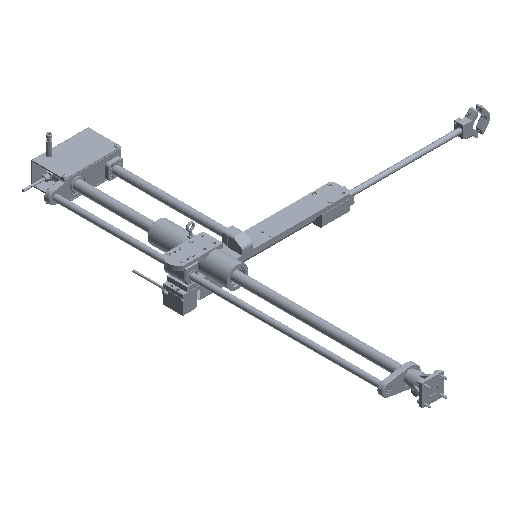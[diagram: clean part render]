
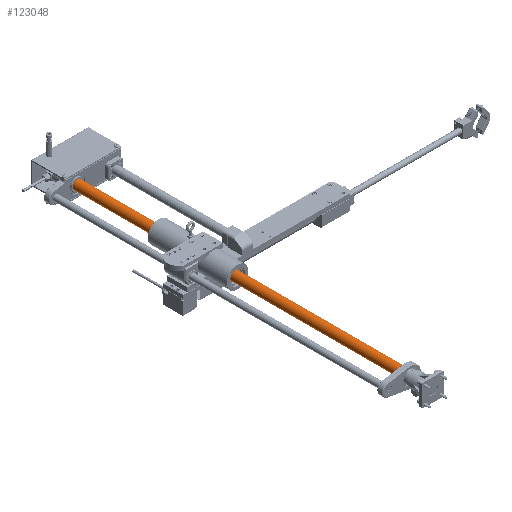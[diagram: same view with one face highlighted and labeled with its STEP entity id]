
A CAD part, isometric view. The second image highlights one B-rep face of the part: STEP entity #123048.
In plain terms, the highlighted cylindrical face has radius 12.5 mm (diameter 25 mm), a partial arc.
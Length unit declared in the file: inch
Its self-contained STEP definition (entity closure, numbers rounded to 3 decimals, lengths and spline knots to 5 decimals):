
#3354 = CARTESIAN_POINT ( 'NONE',  ( 0.49213, 0., 38.58268 ) ) ;
#6844 = CIRCLE ( 'NONE', #18967, 0.49213 ) ;
#7171 = CARTESIAN_POINT ( 'NONE',  ( 0., 0., 38.54331 ) ) ;
#17073 = CARTESIAN_POINT ( 'NONE',  ( 0., 0., 0.03937 ) ) ;
#18967 = AXIS2_PLACEMENT_3D ( 'NONE', #17073, #117022, #31469 ) ;
#21378 = FACE_OUTER_BOUND ( 'NONE', #105365, .T. ) ;
#21532 = DIRECTION ( 'NONE',  ( 1., 0., 0. ) ) ;
#25702 = EDGE_CURVE ( 'NONE', #120242, #50035, #6844, .T. ) ;
#31469 = DIRECTION ( 'NONE',  ( 1., 0., 0. ) ) ;
#36453 = EDGE_CURVE ( 'NONE', #66056, #150390, #83802, .T. ) ;
#40028 = CARTESIAN_POINT ( 'NONE',  ( -0.49213, 0., 38.54331 ) ) ;
#40856 = AXIS2_PLACEMENT_3D ( 'NONE', #7171, #107111, #21532 ) ;
#42890 = VECTOR ( 'NONE', #105676, 39.37008 ) ;
#47448 = LINE ( 'NONE', #120054, #42890 ) ;
#50035 = VERTEX_POINT ( 'NONE', #100467 ) ;
#52361 = CARTESIAN_POINT ( 'NONE',  ( 0., 0., 38.58268 ) ) ;
#64918 = VECTOR ( 'NONE', #88906, 39.37008 ) ;
#66056 = VERTEX_POINT ( 'NONE', #40028 ) ;
#69380 = LINE ( 'NONE', #3354, #64918 ) ;
#71597 = ORIENTED_EDGE ( 'NONE', *, *, #36453, .T. ) ;
#83802 = CIRCLE ( 'NONE', #40856, 0.49213 ) ;
#88906 = DIRECTION ( 'NONE',  ( 0., 0., -1. ) ) ;
#100467 = CARTESIAN_POINT ( 'NONE',  ( -0.49213, 0., 0.03937 ) ) ;
#101502 = EDGE_CURVE ( 'NONE', #66056, #50035, #47448, .T. ) ;
#105365 = EDGE_LOOP ( 'NONE', ( #71597, #167458, #178089, #146533 ) ) ;
#105676 = DIRECTION ( 'NONE',  ( 0., 0., -1. ) ) ;
#107111 = DIRECTION ( 'NONE',  ( 0., 0., -1. ) ) ;
#109782 = AXIS2_PLACEMENT_3D ( 'NONE', #52361, #180313, #152229 ) ;
#111227 = CARTESIAN_POINT ( 'NONE',  ( 0.49213, 0., 38.54331 ) ) ;
#117022 = DIRECTION ( 'NONE',  ( 0., 0., 1. ) ) ;
#119386 = EDGE_CURVE ( 'NONE', #150390, #120242, #69380, .T. ) ;
#120054 = CARTESIAN_POINT ( 'NONE',  ( -0.49213, 0., 38.58268 ) ) ;
#120242 = VERTEX_POINT ( 'NONE', #181321 ) ;
#123048 = ADVANCED_FACE ( 'NONE', ( #21378 ), #130841, .T. ) ;
#130841 = CYLINDRICAL_SURFACE ( 'NONE', #109782, 0.49213 ) ;
#146533 = ORIENTED_EDGE ( 'NONE', *, *, #101502, .F. ) ;
#150390 = VERTEX_POINT ( 'NONE', #111227 ) ;
#152229 = DIRECTION ( 'NONE',  ( -1., 0., 0. ) ) ;
#167458 = ORIENTED_EDGE ( 'NONE', *, *, #119386, .T. ) ;
#178089 = ORIENTED_EDGE ( 'NONE', *, *, #25702, .T. ) ;
#180313 = DIRECTION ( 'NONE',  ( 0., 0., -1. ) ) ;
#181321 = CARTESIAN_POINT ( 'NONE',  ( 0.49213, 0., 0.03937 ) ) ;
